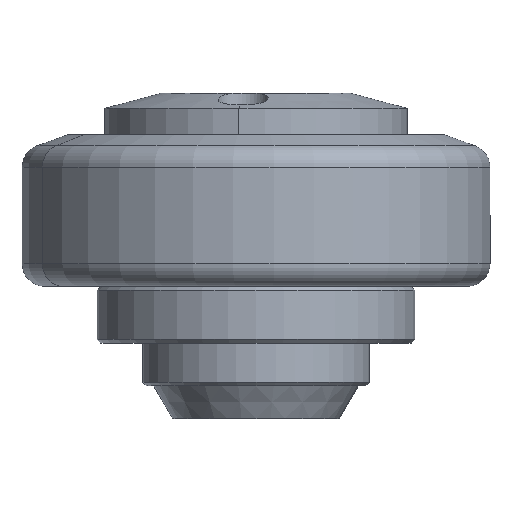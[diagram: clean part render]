
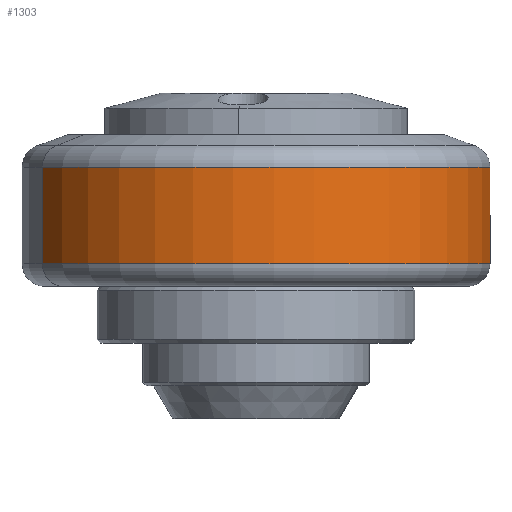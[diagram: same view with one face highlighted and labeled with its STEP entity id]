
A CAD part, front view. The second image highlights one B-rep face of the part: STEP entity #1303.
In plain terms, the highlighted cylindrical face has radius 31 mm (diameter 62 mm), a partial arc.
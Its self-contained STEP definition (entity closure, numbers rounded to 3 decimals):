
#9 = DIRECTION ( 'NONE',  ( -1., 0., 0. ) ) ;
#54 = AXIS2_PLACEMENT_3D ( 'NONE', #1607, #646, #1929 ) ;
#169 = AXIS2_PLACEMENT_3D ( 'NONE', #1395, #9, #1782 ) ;
#181 = EDGE_CURVE ( 'NONE', #1430, #1138, #645, .T. ) ;
#296 = CARTESIAN_POINT ( 'NONE',  ( -7.5, 0., 31. ) ) ;
#299 = VECTOR ( 'NONE', #1468, 1000. ) ;
#379 = DIRECTION ( 'NONE',  ( -1., 0., 0. ) ) ;
#452 = CARTESIAN_POINT ( 'NONE',  ( 5.216, 0., 31. ) ) ;
#503 = ORIENTED_EDGE ( 'NONE', *, *, #2004, .T. ) ;
#640 = CYLINDRICAL_SURFACE ( 'NONE', #169, 31. ) ;
#645 = CIRCLE ( 'NONE', #54, 31. ) ;
#646 = DIRECTION ( 'NONE',  ( -1., 0., 0. ) ) ;
#713 = VECTOR ( 'NONE', #1434, 1000. ) ;
#770 = EDGE_CURVE ( 'NONE', #1486, #1138, #2000, .T. ) ;
#977 = CARTESIAN_POINT ( 'NONE',  ( -1000., 0., 31. ) ) ;
#1063 = CIRCLE ( 'NONE', #2018, 31. ) ;
#1130 = CARTESIAN_POINT ( 'NONE',  ( -1000., 0., -31. ) ) ;
#1138 = VERTEX_POINT ( 'NONE', #296 ) ;
#1175 = CARTESIAN_POINT ( 'NONE',  ( 5.216, 0., 0. ) ) ;
#1180 = ORIENTED_EDGE ( 'NONE', *, *, #1699, .F. ) ;
#1303 = ADVANCED_FACE ( 'NONE', ( #1692 ), #640, .T. ) ;
#1372 = VERTEX_POINT ( 'NONE', #1753 ) ;
#1395 = CARTESIAN_POINT ( 'NONE',  ( -1000., 0., 0. ) ) ;
#1430 = VERTEX_POINT ( 'NONE', #1594 ) ;
#1434 = DIRECTION ( 'NONE',  ( -1., 0., 0. ) ) ;
#1468 = DIRECTION ( 'NONE',  ( -1., 0., 0. ) ) ;
#1486 = VERTEX_POINT ( 'NONE', #452 ) ;
#1565 = EDGE_LOOP ( 'NONE', ( #1180, #503, #1763, #1990 ) ) ;
#1594 = CARTESIAN_POINT ( 'NONE',  ( -7.5, 0., -31. ) ) ;
#1607 = CARTESIAN_POINT ( 'NONE',  ( -7.5, 0., 0. ) ) ;
#1650 = DIRECTION ( 'NONE',  ( 0., 0., 1. ) ) ;
#1692 = FACE_OUTER_BOUND ( 'NONE', #1565, .T. ) ;
#1699 = EDGE_CURVE ( 'NONE', #1372, #1430, #1993, .T. ) ;
#1753 = CARTESIAN_POINT ( 'NONE',  ( 5.216, 0., -31. ) ) ;
#1763 = ORIENTED_EDGE ( 'NONE', *, *, #770, .T. ) ;
#1782 = DIRECTION ( 'NONE',  ( 0., 0., 1. ) ) ;
#1929 = DIRECTION ( 'NONE',  ( 0., 0., 1. ) ) ;
#1990 = ORIENTED_EDGE ( 'NONE', *, *, #181, .F. ) ;
#1993 = LINE ( 'NONE', #1130, #713 ) ;
#2000 = LINE ( 'NONE', #977, #299 ) ;
#2004 = EDGE_CURVE ( 'NONE', #1372, #1486, #1063, .T. ) ;
#2018 = AXIS2_PLACEMENT_3D ( 'NONE', #1175, #379, #1650 ) ;
